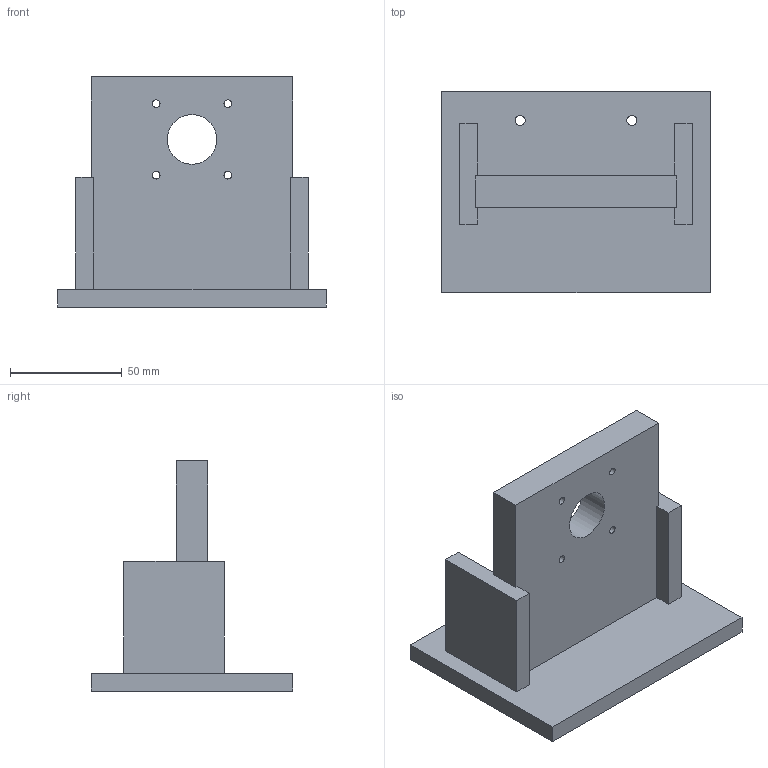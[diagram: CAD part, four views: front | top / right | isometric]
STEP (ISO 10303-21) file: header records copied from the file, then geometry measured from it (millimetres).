
FILE_DESCRIPTION(('Open CASCADE Model'),'2;1');
FILE_NAME('Open CASCADE Shape Model','2026-10-21T16:54:03',('Author'),( 'Open CASCADE'),'Open CASCADE STEP processor 7.9','Open CASCADE 7.9' ,'Unknown');
FILE_SCHEMA(('AUTOMOTIVE_DESIGN { 1 0 10303 214 1 1 1 1 }'));
Length unit declared in the file: millimetre
Products named in the file (1): Open CASCADE STEP translator 7.9 52
Bounding box: 120 x 90 x 103 mm (x, y, z)
Volume: 233472.1 mm3; surface area: 53620.5 mm2
Topology: 1 solids, 1 shells, 38 faces, 93 edges, 62 vertices
Faces by surface type: plane 27, cylinder 11
Full cylindrical faces by diameter (mm): 3.4 x4, 4.5 x2, 10.2 x4, 22.2 x1
Entity records: 2390 total; most frequent: CARTESIAN_POINT 428, DIRECTION 371, LINE 235, VECTOR 235, ORIENTED_EDGE 186, PCURVE 186, DEFINITIONAL_REPRESENTATION 186, EDGE_CURVE 93
